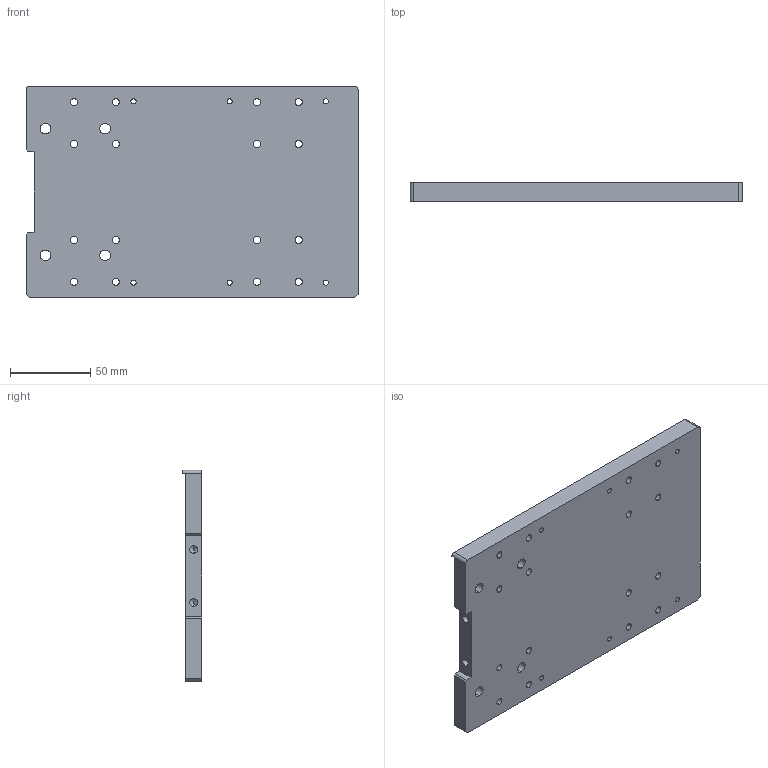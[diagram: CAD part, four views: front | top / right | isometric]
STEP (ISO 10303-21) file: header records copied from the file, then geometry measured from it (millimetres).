
FILE_DESCRIPTION (( 'STEP AP214' ), '1' );
FILE_NAME ('GZ30.07_V1压装底板.STEP', '2021-06-04T02:09:50', ( '微软中国' ), ( 'Microsoft' ), 'SwSTEP 2.0', 'SolidWorks 2017', '' );
FILE_SCHEMA (( 'AUTOMOTIVE_DESIGN' ));
Length unit declared in the file: millimetre
Products named in the file (1): GZ30.07_V1揤蚾菁啣
Bounding box: 207 x 12 x 132 mm (x, y, z)
Volume: 263932 mm3; surface area: 65892.6 mm2
Topology: 1 solids, 1 shells, 126 faces, 318 edges, 208 vertices
Faces by surface type: cylinder 90, plane 32, cone 4
Entity records: 4248 total; most frequent: DIRECTION 748, CARTESIAN_POINT 649, ORIENTED_EDGE 628, EDGE_CURVE 314, AXIS2_PLACEMENT_3D 307, VERTEX_POINT 208, EDGE_LOOP 196, CIRCLE 180
